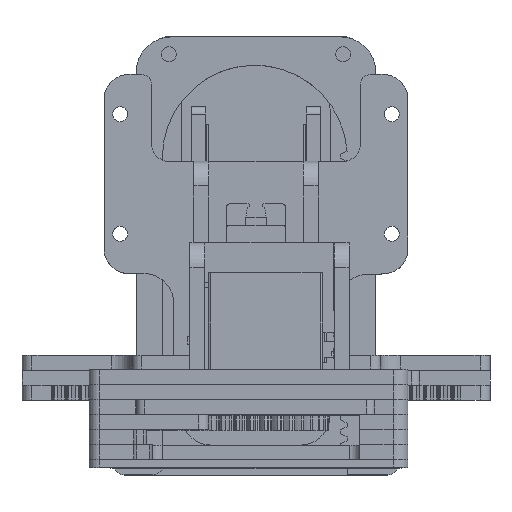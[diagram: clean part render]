
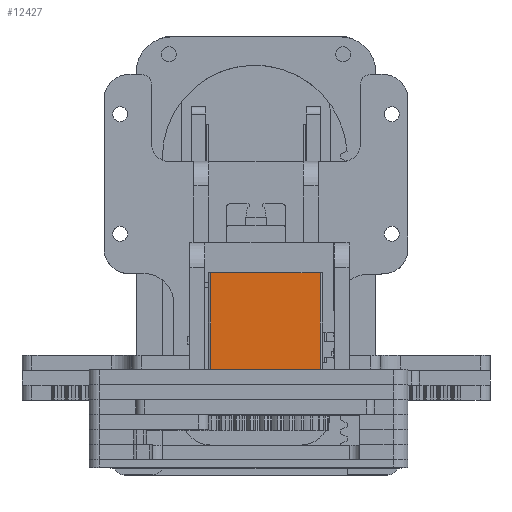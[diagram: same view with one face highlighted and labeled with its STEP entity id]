
A CAD part, top view. The second image highlights one B-rep face of the part: STEP entity #12427.
In plain terms, the highlighted planar face has unit normal (0, 0, 1).
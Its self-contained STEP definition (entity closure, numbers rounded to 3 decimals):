
#40 = CARTESIAN_POINT ( 'NONE',  ( -8.232, 5.6, 0.693 ) ) ;
#262 = VERTEX_POINT ( 'NONE', #40564 ) ;
#859 = VERTEX_POINT ( 'NONE', #19305 ) ;
#1006 = CARTESIAN_POINT ( 'NONE',  ( -31.682, 28.5, 0.693 ) ) ;
#1126 = DIRECTION ( 'NONE',  ( 1., 0., 0. ) ) ;
#1315 = EDGE_CURVE ( 'NONE', #262, #50354, #45001, .T. ) ;
#1617 = FACE_OUTER_BOUND ( 'NONE', #4821, .T. ) ;
#2564 = CARTESIAN_POINT ( 'NONE',  ( -31.682, 28.5, 0.693 ) ) ;
#2670 = CARTESIAN_POINT ( 'NONE',  ( -26.182, 28.5, 0.693 ) ) ;
#3081 = DIRECTION ( 'NONE',  ( 1., 0., 0. ) ) ;
#3713 = VECTOR ( 'NONE', #52597, 1000. ) ;
#4821 = EDGE_LOOP ( 'NONE', ( #11302, #17408, #65564, #36373, #16757, #78172, #73954, #62533, #75119, #50847, #66456, #75019, #76018, #19850, #7654, #43258 ) ) ;
#5525 = DIRECTION ( 'NONE',  ( 0., -1., 0. ) ) ;
#6543 = CARTESIAN_POINT ( 'NONE',  ( -8.232, 6.7, 0.693 ) ) ;
#7654 = ORIENTED_EDGE ( 'NONE', *, *, #22286, .T. ) ;
#8582 = VERTEX_POINT ( 'NONE', #41107 ) ;
#8863 = EDGE_CURVE ( 'NONE', #20589, #74824, #35032, .T. ) ;
#8959 = EDGE_CURVE ( 'NONE', #70052, #54338, #12856, .T. ) ;
#9331 = LINE ( 'NONE', #26480, #13200 ) ;
#10208 = CARTESIAN_POINT ( 'NONE',  ( -26.182, 8.7, 0.693 ) ) ;
#10796 = VECTOR ( 'NONE', #50375, 1000. ) ;
#11302 = ORIENTED_EDGE ( 'NONE', *, *, #44263, .F. ) ;
#12427 = ADVANCED_FACE ( 'NONE', ( #1617 ), #21269, .T. ) ;
#12856 = LINE ( 'NONE', #14336, #76527 ) ;
#13200 = VECTOR ( 'NONE', #69663, 1000. ) ;
#13432 = CARTESIAN_POINT ( 'NONE',  ( -31.682, 28.5, 0.693 ) ) ;
#14336 = CARTESIAN_POINT ( 'NONE',  ( -26.182, 6.7, 0.693 ) ) ;
#14791 = VERTEX_POINT ( 'NONE', #38117 ) ;
#14931 = CARTESIAN_POINT ( 'NONE',  ( -9.682, 8.7, 0.693 ) ) ;
#15112 = VERTEX_POINT ( 'NONE', #28932 ) ;
#15613 = EDGE_CURVE ( 'NONE', #16440, #70052, #71292, .T. ) ;
#16400 = DIRECTION ( 'NONE',  ( -1., 0., 0. ) ) ;
#16440 = VERTEX_POINT ( 'NONE', #40 ) ;
#16757 = ORIENTED_EDGE ( 'NONE', *, *, #30929, .F. ) ;
#17133 = VERTEX_POINT ( 'NONE', #1006 ) ;
#17408 = ORIENTED_EDGE ( 'NONE', *, *, #67161, .T. ) ;
#17884 = VECTOR ( 'NONE', #33365, 1000. ) ;
#19052 = DIRECTION ( 'NONE',  ( 0., 1., 0. ) ) ;
#19305 = CARTESIAN_POINT ( 'NONE',  ( -31.682, 4.5, 0.693 ) ) ;
#19850 = ORIENTED_EDGE ( 'NONE', *, *, #8863, .T. ) ;
#20589 = VERTEX_POINT ( 'NONE', #45622 ) ;
#21072 = EDGE_CURVE ( 'NONE', #17133, #14791, #60017, .T. ) ;
#21269 = PLANE ( 'NONE',  #53246 ) ;
#21801 = CARTESIAN_POINT ( 'NONE',  ( -8.232, 5.6, 0.693 ) ) ;
#22286 = EDGE_CURVE ( 'NONE', #74824, #859, #56929, .T. ) ;
#22931 = LINE ( 'NONE', #68495, #39324 ) ;
#24226 = EDGE_CURVE ( 'NONE', #15112, #38993, #79727, .T. ) ;
#24534 = VERTEX_POINT ( 'NONE', #55716 ) ;
#26012 = VECTOR ( 'NONE', #45734, 1000. ) ;
#26143 = CARTESIAN_POINT ( 'NONE',  ( -31.682, 5.6, 0.693 ) ) ;
#26480 = CARTESIAN_POINT ( 'NONE',  ( -9.682, 28.5, 0.693 ) ) ;
#27163 = EDGE_CURVE ( 'NONE', #14791, #262, #27787, .T. ) ;
#27176 = CARTESIAN_POINT ( 'NONE',  ( -26.182, 8.7, 0.693 ) ) ;
#27470 = DIRECTION ( 'NONE',  ( 0., 0., 1. ) ) ;
#27787 = LINE ( 'NONE', #10208, #58701 ) ;
#28932 = CARTESIAN_POINT ( 'NONE',  ( -9.682, 28.5, 0.693 ) ) ;
#30633 = CARTESIAN_POINT ( 'NONE',  ( -26.182, 6.7, 0.693 ) ) ;
#30811 = VECTOR ( 'NONE', #67362, 1000. ) ;
#30929 = EDGE_CURVE ( 'NONE', #24534, #54338, #69809, .T. ) ;
#32607 = EDGE_CURVE ( 'NONE', #8582, #50354, #80024, .T. ) ;
#33365 = DIRECTION ( 'NONE',  ( 1., 0., 0. ) ) ;
#33787 = CARTESIAN_POINT ( 'NONE',  ( -26.182, 5.6, 0.693 ) ) ;
#35032 = LINE ( 'NONE', #75027, #65968 ) ;
#36373 = ORIENTED_EDGE ( 'NONE', *, *, #8959, .T. ) ;
#38117 = CARTESIAN_POINT ( 'NONE',  ( -31.682, 8.7, 0.693 ) ) ;
#38993 = VERTEX_POINT ( 'NONE', #14931 ) ;
#39324 = VECTOR ( 'NONE', #19052, 1000. ) ;
#40564 = CARTESIAN_POINT ( 'NONE',  ( -35.782, 8.7, 0.693 ) ) ;
#41107 = CARTESIAN_POINT ( 'NONE',  ( -33.132, 6.7, 0.693 ) ) ;
#42287 = CARTESIAN_POINT ( 'NONE',  ( -9.682, 4.5, 0.693 ) ) ;
#42365 = EDGE_CURVE ( 'NONE', #65416, #859, #44377, .T. ) ;
#42548 = CARTESIAN_POINT ( 'NONE',  ( -5.582, 6.7, 0.693 ) ) ;
#43258 = ORIENTED_EDGE ( 'NONE', *, *, #42365, .F. ) ;
#44263 = EDGE_CURVE ( 'NONE', #64410, #65416, #9331, .T. ) ;
#44377 = LINE ( 'NONE', #71630, #60814 ) ;
#45001 = LINE ( 'NONE', #79410, #75873 ) ;
#45194 = CARTESIAN_POINT ( 'NONE',  ( -9.682, 28.5, 0.693 ) ) ;
#45622 = CARTESIAN_POINT ( 'NONE',  ( -33.132, 5.6, 0.693 ) ) ;
#45734 = DIRECTION ( 'NONE',  ( 0., -1., 0. ) ) ;
#45794 = VECTOR ( 'NONE', #3081, 1000. ) ;
#47088 = DIRECTION ( 'NONE',  ( -1., 0., 0. ) ) ;
#48250 = VECTOR ( 'NONE', #69728, 1000. ) ;
#50354 = VERTEX_POINT ( 'NONE', #56963 ) ;
#50375 = DIRECTION ( 'NONE',  ( 0., -1., 0. ) ) ;
#50847 = ORIENTED_EDGE ( 'NONE', *, *, #27163, .T. ) ;
#51281 = DIRECTION ( 'NONE',  ( 1., 0., 0. ) ) ;
#52597 = DIRECTION ( 'NONE',  ( 0., 1., 0. ) ) ;
#53246 = AXIS2_PLACEMENT_3D ( 'NONE', #2670, #27470, #70677 ) ;
#53409 = VECTOR ( 'NONE', #72104, 1000. ) ;
#54040 = EDGE_CURVE ( 'NONE', #38993, #24534, #67166, .T. ) ;
#54338 = VERTEX_POINT ( 'NONE', #42548 ) ;
#55716 = CARTESIAN_POINT ( 'NONE',  ( -5.582, 8.7, 0.693 ) ) ;
#56929 = LINE ( 'NONE', #2564, #26012 ) ;
#56963 = CARTESIAN_POINT ( 'NONE',  ( -35.782, 6.7, 0.693 ) ) ;
#57615 = DIRECTION ( 'NONE',  ( 0., -1., 0. ) ) ;
#58701 = VECTOR ( 'NONE', #16400, 1000. ) ;
#60017 = LINE ( 'NONE', #13432, #10796 ) ;
#60814 = VECTOR ( 'NONE', #47088, 1000. ) ;
#61418 = VECTOR ( 'NONE', #57615, 1000. ) ;
#62533 = ORIENTED_EDGE ( 'NONE', *, *, #80084, .T. ) ;
#62905 = EDGE_CURVE ( 'NONE', #20589, #8582, #22931, .T. ) ;
#63510 = CARTESIAN_POINT ( 'NONE',  ( -26.182, 28.5, 0.693 ) ) ;
#64140 = LINE ( 'NONE', #33787, #45794 ) ;
#64410 = VERTEX_POINT ( 'NONE', #75328 ) ;
#64640 = LINE ( 'NONE', #63510, #48250 ) ;
#65416 = VERTEX_POINT ( 'NONE', #42287 ) ;
#65564 = ORIENTED_EDGE ( 'NONE', *, *, #15613, .T. ) ;
#65909 = CARTESIAN_POINT ( 'NONE',  ( -5.582, 8.7, 0.693 ) ) ;
#65968 = VECTOR ( 'NONE', #1126, 1000. ) ;
#66456 = ORIENTED_EDGE ( 'NONE', *, *, #1315, .T. ) ;
#67161 = EDGE_CURVE ( 'NONE', #64410, #16440, #64140, .T. ) ;
#67166 = LINE ( 'NONE', #27176, #17884 ) ;
#67362 = DIRECTION ( 'NONE',  ( -1., 0., 0. ) ) ;
#68495 = CARTESIAN_POINT ( 'NONE',  ( -33.132, 5.6, 0.693 ) ) ;
#69663 = DIRECTION ( 'NONE',  ( 0., -1., 0. ) ) ;
#69728 = DIRECTION ( 'NONE',  ( -1., 0., 0. ) ) ;
#69809 = LINE ( 'NONE', #65909, #53409 ) ;
#70052 = VERTEX_POINT ( 'NONE', #6543 ) ;
#70677 = DIRECTION ( 'NONE',  ( -1., 0., 0. ) ) ;
#71292 = LINE ( 'NONE', #21801, #3713 ) ;
#71630 = CARTESIAN_POINT ( 'NONE',  ( -26.182, 4.5, 0.693 ) ) ;
#72104 = DIRECTION ( 'NONE',  ( 0., -1., 0. ) ) ;
#73954 = ORIENTED_EDGE ( 'NONE', *, *, #24226, .F. ) ;
#74824 = VERTEX_POINT ( 'NONE', #26143 ) ;
#75019 = ORIENTED_EDGE ( 'NONE', *, *, #32607, .F. ) ;
#75027 = CARTESIAN_POINT ( 'NONE',  ( -26.182, 5.6, 0.693 ) ) ;
#75119 = ORIENTED_EDGE ( 'NONE', *, *, #21072, .T. ) ;
#75328 = CARTESIAN_POINT ( 'NONE',  ( -9.682, 5.6, 0.693 ) ) ;
#75873 = VECTOR ( 'NONE', #5525, 1000. ) ;
#76018 = ORIENTED_EDGE ( 'NONE', *, *, #62905, .F. ) ;
#76527 = VECTOR ( 'NONE', #51281, 1000. ) ;
#78172 = ORIENTED_EDGE ( 'NONE', *, *, #54040, .F. ) ;
#79410 = CARTESIAN_POINT ( 'NONE',  ( -35.782, 8.7, 0.693 ) ) ;
#79727 = LINE ( 'NONE', #45194, #61418 ) ;
#80024 = LINE ( 'NONE', #30633, #30811 ) ;
#80084 = EDGE_CURVE ( 'NONE', #15112, #17133, #64640, .T. ) ;
